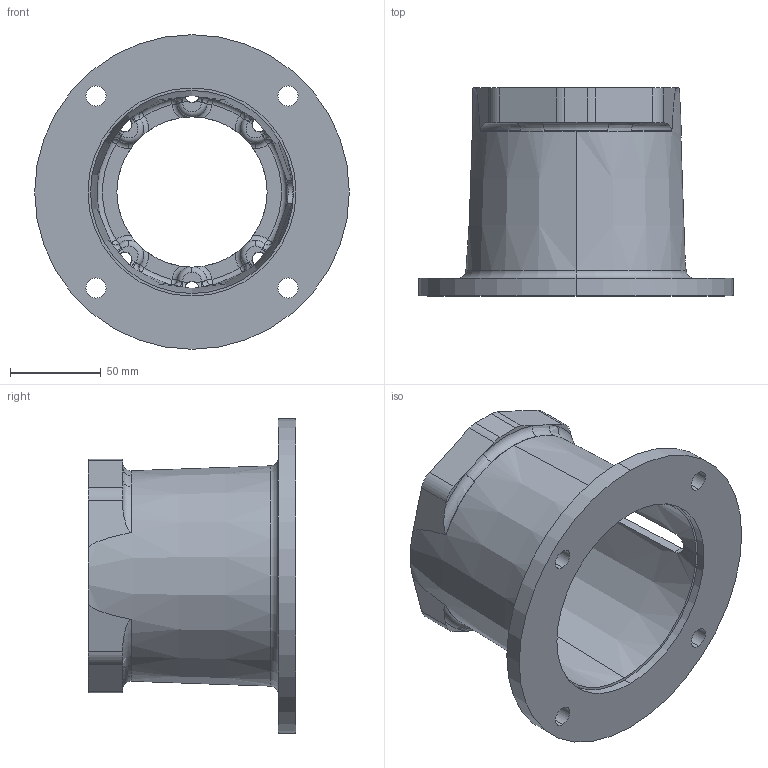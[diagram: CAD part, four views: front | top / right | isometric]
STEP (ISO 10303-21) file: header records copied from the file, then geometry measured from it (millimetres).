
FILE_DESCRIPTION (( 'STEP AP203' ), '1' );
FILE_NAME ('M056452A.STEP', '2007-12-21T20:24:53', ( 'Chris McCoy' ), ( 'Magnaloy Coupling Co' ), 'SwSTEP 2.0', 'SolidWorks 2007', '' );
FILE_SCHEMA (( 'CONFIG_CONTROL_DESIGN' ));
Length unit declared in the file: inch
Products named in the file (1): M056452A
Bounding box: 172.97 x 114.3 x 172.97 mm (x, y, z)
Volume: 365722.7 mm3; surface area: 120829 mm2
Topology: 1 solids, 1 shells, 234 faces, 624 edges, 372 vertices
Faces by surface type: torus 61, cylinder 55, bspline 40, plane 34, sphere 24, cone 20
Entity records: 9748 total; most frequent: CARTESIAN_POINT 4072, ORIENTED_EDGE 1216, DIRECTION 1203, EDGE_CURVE 608, AXIS2_PLACEMENT_3D 553, VERTEX_POINT 372, CIRCLE 358, EDGE_LOOP 254
